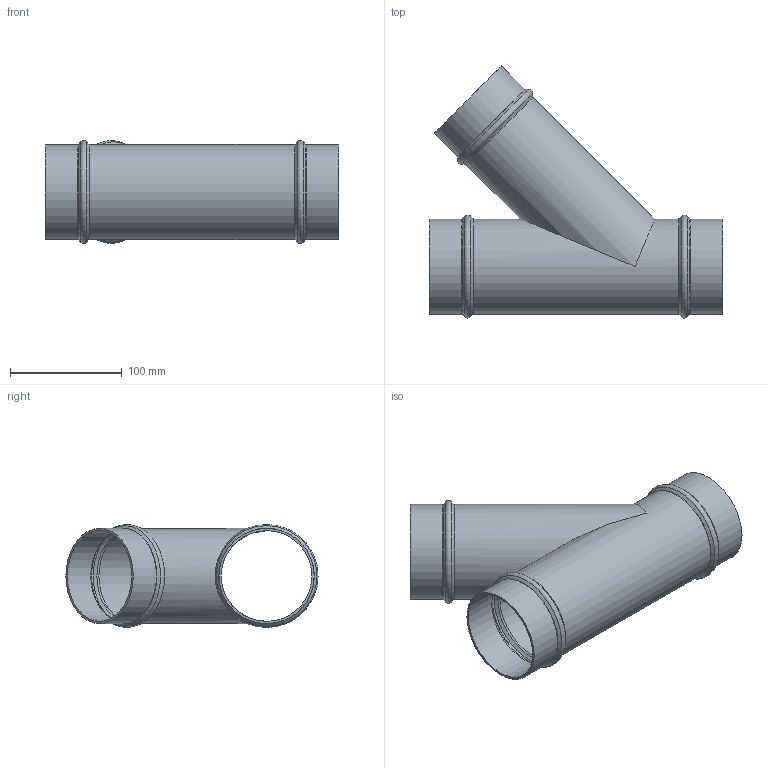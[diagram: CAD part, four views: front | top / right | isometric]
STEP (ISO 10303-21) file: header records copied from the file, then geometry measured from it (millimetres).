
FILE_DESCRIPTION(/* description */ (''),/* implementation_level */ '2;1');
FILE_NAME(/* name */ '2016 7009 00.stp',/* time_stamp */ '2025-07-25T12:47:41+08:00',/* author */ (''),/* organization */ (''),/* preprocessor_version */ 'ST-DEVELOPER v11',/* originating_system */ 'SIEMENS PLM Software NX 7.5',/* authorisation */ '');
FILE_SCHEMA (('CONFIG_CONTROL_DESIGN'));
Length unit declared in the file: millimetre
Products named in the file (1): Admi7CF9xr9t
Bounding box: 262.5 x 225.24 x 91.98 mm (x, y, z)
Volume: 212845.1 mm3; surface area: 214394.6 mm2
Topology: 1 solids, 1 shells, 43 faces, 92 edges, 50 vertices
Faces by surface type: torus 18, cone 12, cylinder 10, plane 3
Full cylindrical faces by diameter (mm): 81 x5, 85 x5
Entity records: 988 total; most frequent: DIRECTION 180, CARTESIAN_POINT 136, ORIENTED_EDGE 92, AXIS2_PLACEMENT_3D 90, FACE_BOUND 88, EDGE_LOOP 88, VERTEX_POINT 46, EDGE_CURVE 46
